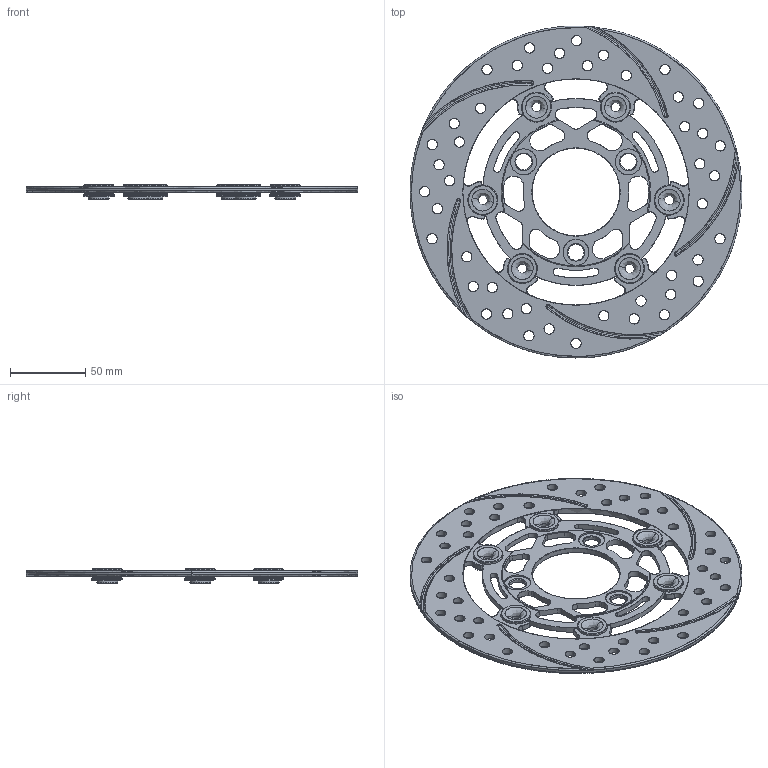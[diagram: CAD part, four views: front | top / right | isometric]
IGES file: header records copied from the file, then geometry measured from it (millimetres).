
Start section: SolidWorks IGES file using analytic representation for surfaces
Bounding box: 220 x 220 x 9.8 mm (x, y, z)
Surface area: 79797.9 mm2 (no closed solid volume)
Topology: 0 solids, 0 shells, 971 faces, 16951 edges, 16951 vertices
Faces by surface type: revolution 769, bspline 202
